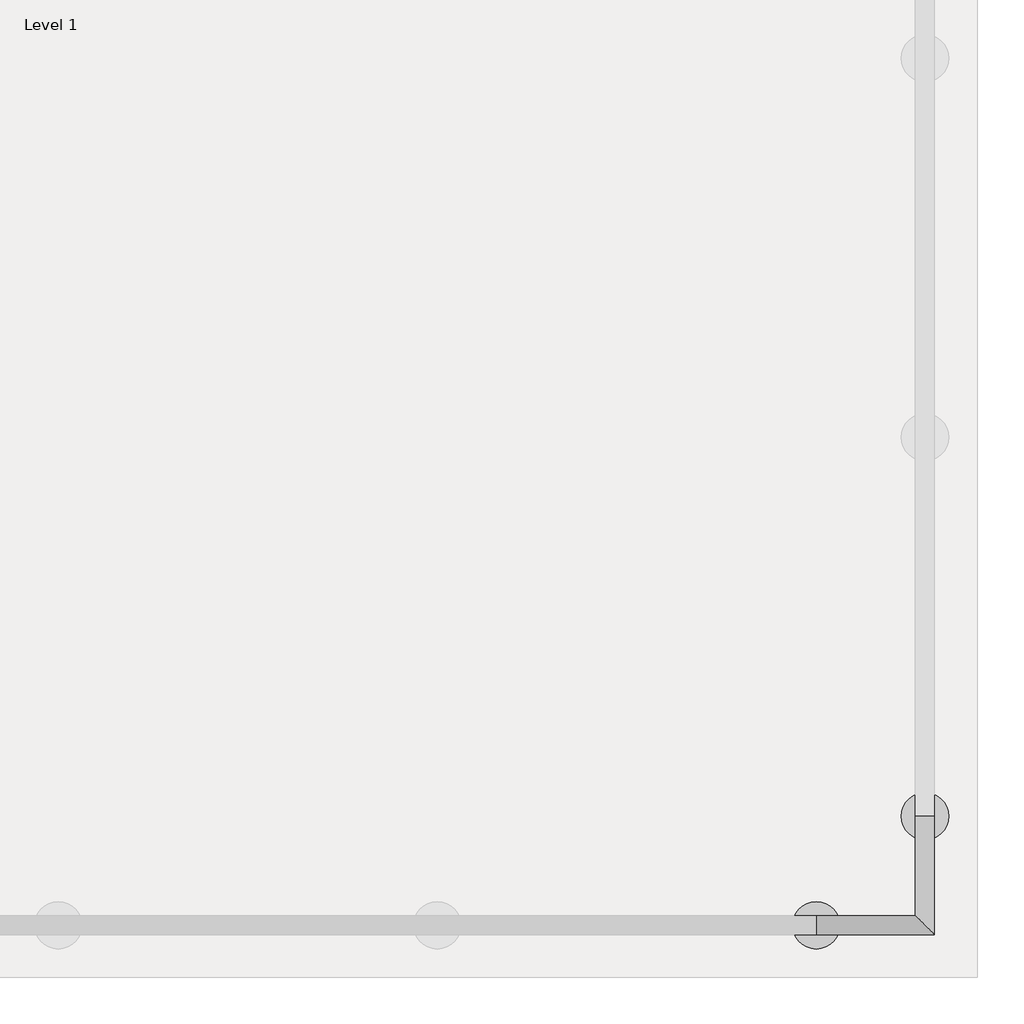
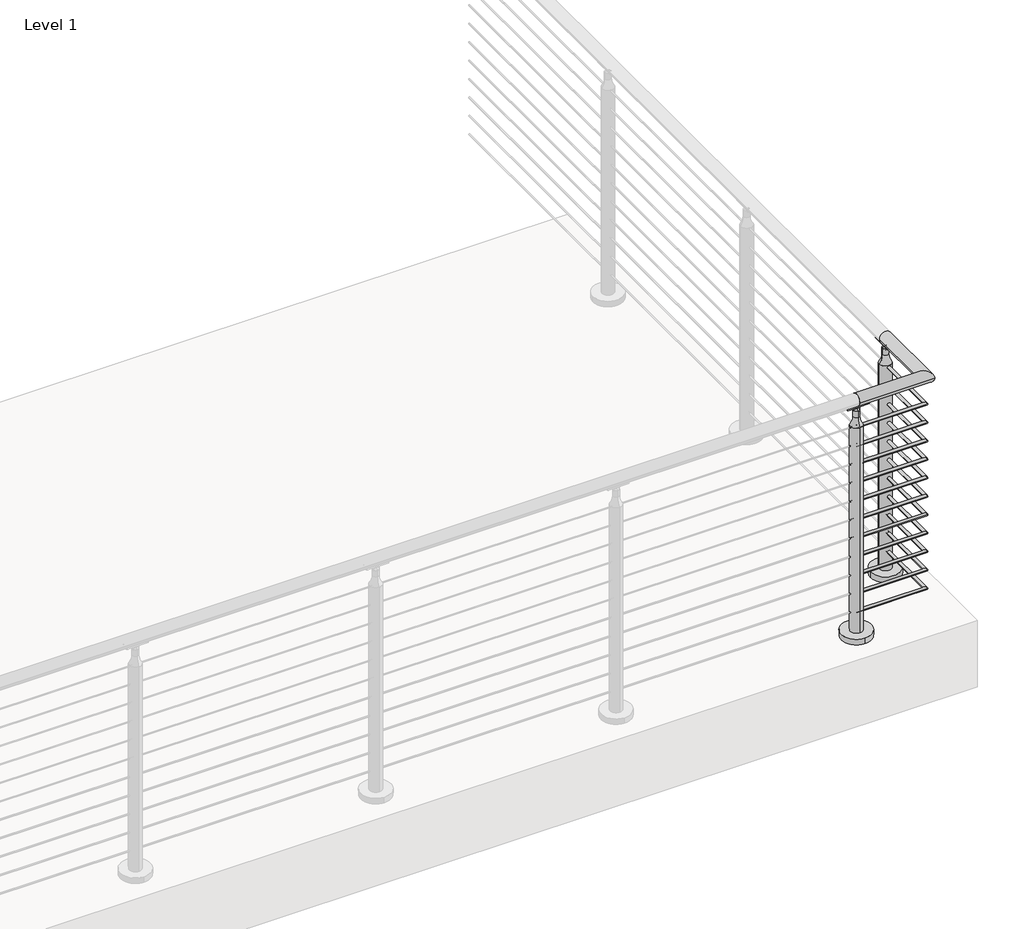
# One storey, part 17 of 21: 1 railing.
"""IFC4 building model written with IfcOpenShell, lengths in millimetres."""

from ifc_helpers import new_model, si_unit, point, frame, frame_2d, origin, origin_with_axes, place, context, project, spatial, polyline, circle_curve, ellipse_curve, trimmed, segment, composite_curve, outline, extrude, element, save
from ifc_brep_helpers import plane_surface, cylinder_surface, revolved_surface, advanced_brep

model = new_model("IFC4")

# Units and contexts
model_context = context("Model", 3, world=origin())
ifc_project = project(units=[si_unit("LENGTHUNIT", "METRE", prefix="MILLI")], contexts=[model_context])

# Site, building, storey
site = spatial("IfcSite", under=ifc_project)
building = spatial("IfcBuilding", under=site)
storey = spatial("IfcBuildingStorey", under=building, Name="Level 1", Elevation=0.0)

# Railing
placement = place(None, origin())
element("IfcRailing", 1, ObjectType="VIVA-CIRCA-Cable-Core Mount-Corner", at=placement, inside=storey, context=model_context, shape_type="SolidModel", body=[
    advanced_brep(
    [(69591.9592968, -57070.1334719, 1054.1), (69591.9592968, -57019.3334719, 1054.1), (69909.4592968, -57070.1334719, 1054.1), (69858.6592968, -57019.3334719, 1054.1), (69909.4592968, -56752.6334719, 1054.1), (69858.6592968, -56752.6334719, 1054.1)],
    [
        (0, 1, circle_curve(frame((69591.9592968, -57044.7334719, 1054.1), z_axis=(-1.0, 0.0, 0.0), x_axis=(0.0, 1.0, 0.0)), 25.4)),
        (1, 0, circle_curve(frame((69591.9592968, -57044.7334719, 1054.1), z_axis=(-1.0, 0.0, 0.0), x_axis=(0.0, 1.0, 0.0)), 25.4)),
        (0, 2),
        (2, 3, ellipse_curve(frame((69884.0592968, -57044.7334719, 1054.1), z_axis=(-0.7071067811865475, -0.7071067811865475, 0.0), x_axis=(-0.7071067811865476, 0.7071067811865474, 0.0)), 35.9210245, 25.4)),
        (3, 1),
        (3, 2, ellipse_curve(frame((69884.0592968, -57044.7334719, 1054.1), z_axis=(-0.7071067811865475, -0.7071067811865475, 0.0), x_axis=(-0.7071067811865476, 0.7071067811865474, 0.0)), 35.9210245, 25.4)),
        (4, 5, circle_curve(frame((69884.0592968, -56752.6334719, 1054.1), z_axis=(0.0, 1.0, 0.0), x_axis=(-1.0, 0.0, 0.0)), 25.4)),
        (5, 4, circle_curve(frame((69884.0592968, -56752.6334719, 1054.1), z_axis=(0.0, 1.0, 0.0), x_axis=(-1.0, 0.0, 0.0)), 25.4)),
        (2, 4),
        (5, 3),
    ],
    [
        plane_surface(frame((69591.9592968, -57044.7334719, 1079.5), z_axis=(-1.0, 0.0, 0.0), x_axis=(0.0, 1.0, 0.0))),
        cylinder_surface(frame((69591.9592968, -57044.7334719, 1054.1), z_axis=(-1.0, 0.0, 0.0), x_axis=(0.0, 1.0, 0.0)), 25.4),
        plane_surface(frame((69884.0592968, -56752.6334719, 1079.5), z_axis=(0.0, 1.0, 0.0), x_axis=(0.0, 0.0, 1.0))),
        cylinder_surface(frame((69884.0592968, -57044.7334719, 1054.1), z_axis=(0.0, -1.0, 0.0), x_axis=(-1.0, 0.0, 0.0)), 25.4),
    ],
    [
        (0, [[1, 2]]),
        (1, [[-1, 3, 4, 5]]),
        (1, [[-2, -5, 6, -3]]),
        (2, [[7, 8]]),
        (3, [[-4, 9, -8, 10]]),
        (3, [[-6, -10, -7, -9]]),
    ],
),
    advanced_brep(
    [(69591.9592968, -57038.3834719, 933.45), (69591.9592968, -57051.0834719, 933.45), (69877.7092968, -57038.3834719, 933.45), (69890.4092968, -57051.0834719, 933.45), (69877.7092968, -56752.6334719, 933.45), (69890.4092968, -56752.6334719, 933.45)],
    [
        (0, 1, circle_curve(frame((69591.9592968, -57044.7334719, 933.45), z_axis=(-1.0, 0.0, 0.0), x_axis=(0.0, -1.0, 0.0)), 6.35)),
        (1, 0, circle_curve(frame((69591.9592968, -57044.7334719, 933.45), z_axis=(-1.0, 0.0, 0.0), x_axis=(0.0, -1.0, 0.0)), 6.35)),
        (0, 2),
        (2, 3, ellipse_curve(frame((69884.0592968, -57044.7334719, 933.45), z_axis=(-0.7071067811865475, -0.7071067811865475, 0.0), x_axis=(-0.7071067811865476, 0.7071067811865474, 0.0)), 8.9802561, 6.35)),
        (3, 1),
        (3, 2, ellipse_curve(frame((69884.0592968, -57044.7334719, 933.45), z_axis=(-0.7071067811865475, -0.7071067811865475, 0.0), x_axis=(-0.7071067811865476, 0.7071067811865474, 0.0)), 8.9802561, 6.35)),
        (4, 5, circle_curve(frame((69884.0592968, -56752.6334719, 933.45), z_axis=(0.0, 1.0, 0.0), x_axis=(1.0, 0.0, 0.0)), 6.35)),
        (5, 4, circle_curve(frame((69884.0592968, -56752.6334719, 933.45), z_axis=(0.0, 1.0, 0.0), x_axis=(1.0, 0.0, 0.0)), 6.35)),
        (2, 4),
        (5, 3),
    ],
    [
        plane_surface(frame((69591.9592968, -57044.7334719, 939.8), z_axis=(-1.0, 0.0, 0.0), x_axis=(0.0, 1.0, 0.0))),
        cylinder_surface(frame((69591.9592968, -57044.7334719, 933.45), z_axis=(-1.0, 0.0, 0.0), x_axis=(0.0, -1.0, 0.0)), 6.35),
        plane_surface(frame((69884.0592968, -56752.6334719, 939.8), z_axis=(0.0, 1.0, 0.0), x_axis=(0.0, 0.0, 1.0))),
        cylinder_surface(frame((69884.0592968, -57044.7334719, 933.45), z_axis=(0.0, -1.0, 0.0), x_axis=(1.0, 0.0, 0.0)), 6.35),
    ],
    [
        (0, [[1, 2]]),
        (1, [[-1, 3, 4, 5]]),
        (1, [[-2, -5, 6, -3]]),
        (2, [[7, 8]]),
        (3, [[-4, 9, -8, 10]]),
        (3, [[-6, -10, -7, -9]]),
    ],
),
    advanced_brep(
    [(69591.9592968, -57038.3834719, 850.9), (69591.9592968, -57051.0834719, 850.9), (69877.7092968, -57038.3834719, 850.9), (69890.4092968, -57051.0834719, 850.9), (69877.7092968, -56752.6334719, 850.9), (69890.4092968, -56752.6334719, 850.9)],
    [
        (0, 1, circle_curve(frame((69591.9592968, -57044.7334719, 850.9), z_axis=(-1.0, 0.0, 0.0), x_axis=(0.0, -1.0, 0.0)), 6.35)),
        (1, 0, circle_curve(frame((69591.9592968, -57044.7334719, 850.9), z_axis=(-1.0, 0.0, 0.0), x_axis=(0.0, -1.0, 0.0)), 6.35)),
        (0, 2),
        (2, 3, ellipse_curve(frame((69884.0592968, -57044.7334719, 850.9), z_axis=(-0.7071067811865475, -0.7071067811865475, 0.0), x_axis=(-0.7071067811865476, 0.7071067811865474, 0.0)), 8.9802561, 6.35)),
        (3, 1),
        (3, 2, ellipse_curve(frame((69884.0592968, -57044.7334719, 850.9), z_axis=(-0.7071067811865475, -0.7071067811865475, 0.0), x_axis=(-0.7071067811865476, 0.7071067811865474, 0.0)), 8.9802561, 6.35)),
        (4, 5, circle_curve(frame((69884.0592968, -56752.6334719, 850.9), z_axis=(0.0, 1.0, 0.0), x_axis=(1.0, 0.0, 0.0)), 6.35)),
        (5, 4, circle_curve(frame((69884.0592968, -56752.6334719, 850.9), z_axis=(0.0, 1.0, 0.0), x_axis=(1.0, 0.0, 0.0)), 6.35)),
        (2, 4),
        (5, 3),
    ],
    [
        plane_surface(frame((69591.9592968, -57044.7334719, 857.25), z_axis=(-1.0, 0.0, 0.0), x_axis=(0.0, 1.0, 0.0))),
        cylinder_surface(frame((69591.9592968, -57044.7334719, 850.9), z_axis=(-1.0, 0.0, 0.0), x_axis=(0.0, -1.0, 0.0)), 6.35),
        plane_surface(frame((69884.0592968, -56752.6334719, 857.25), z_axis=(0.0, 1.0, 0.0), x_axis=(0.0, 0.0, 1.0))),
        cylinder_surface(frame((69884.0592968, -57044.7334719, 850.9), z_axis=(0.0, -1.0, 0.0), x_axis=(1.0, 0.0, 0.0)), 6.35),
    ],
    [
        (0, [[1, 2]]),
        (1, [[-1, 3, 4, 5]]),
        (1, [[-2, -5, 6, -3]]),
        (2, [[7, 8]]),
        (3, [[-4, 9, -8, 10]]),
        (3, [[-6, -10, -7, -9]]),
    ],
),
    advanced_brep(
    [(69591.9592968, -57038.3834719, 768.35), (69591.9592968, -57051.0834719, 768.35), (69877.7092968, -57038.3834719, 768.35), (69890.4092968, -57051.0834719, 768.35), (69877.7092968, -56752.6334719, 768.35), (69890.4092968, -56752.6334719, 768.35)],
    [
        (0, 1, circle_curve(frame((69591.9592968, -57044.7334719, 768.35), z_axis=(-1.0, 0.0, 0.0), x_axis=(0.0, -1.0, 0.0)), 6.35)),
        (1, 0, circle_curve(frame((69591.9592968, -57044.7334719, 768.35), z_axis=(-1.0, 0.0, 0.0), x_axis=(0.0, -1.0, 0.0)), 6.35)),
        (0, 2),
        (2, 3, ellipse_curve(frame((69884.0592968, -57044.7334719, 768.35), z_axis=(-0.7071067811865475, -0.7071067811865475, 0.0), x_axis=(-0.7071067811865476, 0.7071067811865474, 0.0)), 8.9802561, 6.35)),
        (3, 1),
        (3, 2, ellipse_curve(frame((69884.0592968, -57044.7334719, 768.35), z_axis=(-0.7071067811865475, -0.7071067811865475, 0.0), x_axis=(-0.7071067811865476, 0.7071067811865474, 0.0)), 8.9802561, 6.35)),
        (4, 5, circle_curve(frame((69884.0592968, -56752.6334719, 768.35), z_axis=(0.0, 1.0, 0.0), x_axis=(1.0, 0.0, 0.0)), 6.35)),
        (5, 4, circle_curve(frame((69884.0592968, -56752.6334719, 768.35), z_axis=(0.0, 1.0, 0.0), x_axis=(1.0, 0.0, 0.0)), 6.35)),
        (2, 4),
        (5, 3),
    ],
    [
        plane_surface(frame((69591.9592968, -57044.7334719, 774.7), z_axis=(-1.0, 0.0, 0.0), x_axis=(0.0, 1.0, 0.0))),
        cylinder_surface(frame((69591.9592968, -57044.7334719, 768.35), z_axis=(-1.0, 0.0, 0.0), x_axis=(0.0, -1.0, 0.0)), 6.35),
        plane_surface(frame((69884.0592968, -56752.6334719, 774.7), z_axis=(0.0, 1.0, 0.0), x_axis=(0.0, 0.0, 1.0))),
        cylinder_surface(frame((69884.0592968, -57044.7334719, 768.35), z_axis=(0.0, -1.0, 0.0), x_axis=(1.0, 0.0, 0.0)), 6.35),
    ],
    [
        (0, [[1, 2]]),
        (1, [[-1, 3, 4, 5]]),
        (1, [[-2, -5, 6, -3]]),
        (2, [[7, 8]]),
        (3, [[-4, 9, -8, 10]]),
        (3, [[-6, -10, -7, -9]]),
    ],
),
    advanced_brep(
    [(69591.9592968, -57038.3834719, 685.8), (69591.9592968, -57051.0834719, 685.8), (69877.7092968, -57038.3834719, 685.8), (69890.4092968, -57051.0834719, 685.8), (69877.7092968, -56752.6334719, 685.8), (69890.4092968, -56752.6334719, 685.8)],
    [
        (0, 1, circle_curve(frame((69591.9592968, -57044.7334719, 685.8), z_axis=(-1.0, 0.0, 0.0), x_axis=(0.0, -1.0, 0.0)), 6.35)),
        (1, 0, circle_curve(frame((69591.9592968, -57044.7334719, 685.8), z_axis=(-1.0, 0.0, 0.0), x_axis=(0.0, -1.0, 0.0)), 6.35)),
        (0, 2),
        (2, 3, ellipse_curve(frame((69884.0592968, -57044.7334719, 685.8), z_axis=(-0.7071067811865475, -0.7071067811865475, 0.0), x_axis=(-0.7071067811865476, 0.7071067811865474, 0.0)), 8.9802561, 6.35)),
        (3, 1),
        (3, 2, ellipse_curve(frame((69884.0592968, -57044.7334719, 685.8), z_axis=(-0.7071067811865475, -0.7071067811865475, 0.0), x_axis=(-0.7071067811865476, 0.7071067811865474, 0.0)), 8.9802561, 6.35)),
        (4, 5, circle_curve(frame((69884.0592968, -56752.6334719, 685.8), z_axis=(0.0, 1.0, 0.0), x_axis=(1.0, 0.0, 0.0)), 6.35)),
        (5, 4, circle_curve(frame((69884.0592968, -56752.6334719, 685.8), z_axis=(0.0, 1.0, 0.0), x_axis=(1.0, 0.0, 0.0)), 6.35)),
        (2, 4),
        (5, 3),
    ],
    [
        plane_surface(frame((69591.9592968, -57044.7334719, 692.15), z_axis=(-1.0, 0.0, 0.0), x_axis=(0.0, 1.0, 0.0))),
        cylinder_surface(frame((69591.9592968, -57044.7334719, 685.8), z_axis=(-1.0, 0.0, 0.0), x_axis=(0.0, -1.0, 0.0)), 6.35),
        plane_surface(frame((69884.0592968, -56752.6334719, 692.15), z_axis=(0.0, 1.0, 0.0), x_axis=(0.0, 0.0, 1.0))),
        cylinder_surface(frame((69884.0592968, -57044.7334719, 685.8), z_axis=(0.0, -1.0, 0.0), x_axis=(1.0, 0.0, 0.0)), 6.35),
    ],
    [
        (0, [[1, 2]]),
        (1, [[-1, 3, 4, 5]]),
        (1, [[-2, -5, 6, -3]]),
        (2, [[7, 8]]),
        (3, [[-4, 9, -8, 10]]),
        (3, [[-6, -10, -7, -9]]),
    ],
),
    advanced_brep(
    [(69591.9592968, -57038.3834719, 603.25), (69591.9592968, -57051.0834719, 603.25), (69877.7092968, -57038.3834719, 603.25), (69890.4092968, -57051.0834719, 603.25), (69877.7092968, -56752.6334719, 603.25), (69890.4092968, -56752.6334719, 603.25)],
    [
        (0, 1, circle_curve(frame((69591.9592968, -57044.7334719, 603.25), z_axis=(-1.0, 0.0, 0.0), x_axis=(0.0, -1.0, 0.0)), 6.35)),
        (1, 0, circle_curve(frame((69591.9592968, -57044.7334719, 603.25), z_axis=(-1.0, 0.0, 0.0), x_axis=(0.0, -1.0, 0.0)), 6.35)),
        (0, 2),
        (2, 3, ellipse_curve(frame((69884.0592968, -57044.7334719, 603.25), z_axis=(-0.7071067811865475, -0.7071067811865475, 0.0), x_axis=(-0.7071067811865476, 0.7071067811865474, 0.0)), 8.9802561, 6.35)),
        (3, 1),
        (3, 2, ellipse_curve(frame((69884.0592968, -57044.7334719, 603.25), z_axis=(-0.7071067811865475, -0.7071067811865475, 0.0), x_axis=(-0.7071067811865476, 0.7071067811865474, 0.0)), 8.9802561, 6.35)),
        (4, 5, circle_curve(frame((69884.0592968, -56752.6334719, 603.25), z_axis=(0.0, 1.0, 0.0), x_axis=(1.0, 0.0, 0.0)), 6.35)),
        (5, 4, circle_curve(frame((69884.0592968, -56752.6334719, 603.25), z_axis=(0.0, 1.0, 0.0), x_axis=(1.0, 0.0, 0.0)), 6.35)),
        (2, 4),
        (5, 3),
    ],
    [
        plane_surface(frame((69591.9592968, -57044.7334719, 609.6), z_axis=(-1.0, 0.0, 0.0), x_axis=(0.0, 1.0, 0.0))),
        cylinder_surface(frame((69591.9592968, -57044.7334719, 603.25), z_axis=(-1.0, 0.0, 0.0), x_axis=(0.0, -1.0, 0.0)), 6.35),
        plane_surface(frame((69884.0592968, -56752.6334719, 609.6), z_axis=(0.0, 1.0, 0.0), x_axis=(0.0, 0.0, 1.0))),
        cylinder_surface(frame((69884.0592968, -57044.7334719, 603.25), z_axis=(0.0, -1.0, 0.0), x_axis=(1.0, 0.0, 0.0)), 6.35),
    ],
    [
        (0, [[1, 2]]),
        (1, [[-1, 3, 4, 5]]),
        (1, [[-2, -5, 6, -3]]),
        (2, [[7, 8]]),
        (3, [[-4, 9, -8, 10]]),
        (3, [[-6, -10, -7, -9]]),
    ],
),
    advanced_brep(
    [(69591.9592968, -57038.3834719, 520.7), (69591.9592968, -57051.0834719, 520.7), (69877.7092968, -57038.3834719, 520.7), (69890.4092968, -57051.0834719, 520.7), (69877.7092968, -56752.6334719, 520.7), (69890.4092968, -56752.6334719, 520.7)],
    [
        (0, 1, circle_curve(frame((69591.9592968, -57044.7334719, 520.7), z_axis=(-1.0, 0.0, 0.0), x_axis=(0.0, -1.0, 0.0)), 6.35)),
        (1, 0, circle_curve(frame((69591.9592968, -57044.7334719, 520.7), z_axis=(-1.0, 0.0, 0.0), x_axis=(0.0, -1.0, 0.0)), 6.35)),
        (0, 2),
        (2, 3, ellipse_curve(frame((69884.0592968, -57044.7334719, 520.7), z_axis=(-0.7071067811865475, -0.7071067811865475, 0.0), x_axis=(-0.7071067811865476, 0.7071067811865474, 0.0)), 8.9802561, 6.35)),
        (3, 1),
        (3, 2, ellipse_curve(frame((69884.0592968, -57044.7334719, 520.7), z_axis=(-0.7071067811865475, -0.7071067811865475, 0.0), x_axis=(-0.7071067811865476, 0.7071067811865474, 0.0)), 8.9802561, 6.35)),
        (4, 5, circle_curve(frame((69884.0592968, -56752.6334719, 520.7), z_axis=(0.0, 1.0, 0.0), x_axis=(1.0, 0.0, 0.0)), 6.35)),
        (5, 4, circle_curve(frame((69884.0592968, -56752.6334719, 520.7), z_axis=(0.0, 1.0, 0.0), x_axis=(1.0, 0.0, 0.0)), 6.35)),
        (2, 4),
        (5, 3),
    ],
    [
        plane_surface(frame((69591.9592968, -57044.7334719, 527.05), z_axis=(-1.0, 0.0, 0.0), x_axis=(0.0, 1.0, 0.0))),
        cylinder_surface(frame((69591.9592968, -57044.7334719, 520.7), z_axis=(-1.0, 0.0, 0.0), x_axis=(0.0, -1.0, 0.0)), 6.35),
        plane_surface(frame((69884.0592968, -56752.6334719, 527.05), z_axis=(0.0, 1.0, 0.0), x_axis=(0.0, 0.0, 1.0))),
        cylinder_surface(frame((69884.0592968, -57044.7334719, 520.7), z_axis=(0.0, -1.0, 0.0), x_axis=(1.0, 0.0, 0.0)), 6.35),
    ],
    [
        (0, [[1, 2]]),
        (1, [[-1, 3, 4, 5]]),
        (1, [[-2, -5, 6, -3]]),
        (2, [[7, 8]]),
        (3, [[-4, 9, -8, 10]]),
        (3, [[-6, -10, -7, -9]]),
    ],
),
    advanced_brep(
    [(69591.9592968, -57038.3834719, 438.15), (69591.9592968, -57051.0834719, 438.15), (69877.7092968, -57038.3834719, 438.15), (69890.4092968, -57051.0834719, 438.15), (69877.7092968, -56752.6334719, 438.15), (69890.4092968, -56752.6334719, 438.15)],
    [
        (0, 1, circle_curve(frame((69591.9592968, -57044.7334719, 438.15), z_axis=(-1.0, 0.0, 0.0), x_axis=(0.0, -1.0, 0.0)), 6.35)),
        (1, 0, circle_curve(frame((69591.9592968, -57044.7334719, 438.15), z_axis=(-1.0, 0.0, 0.0), x_axis=(0.0, -1.0, 0.0)), 6.35)),
        (0, 2),
        (2, 3, ellipse_curve(frame((69884.0592968, -57044.7334719, 438.15), z_axis=(-0.7071067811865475, -0.7071067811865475, 0.0), x_axis=(-0.7071067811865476, 0.7071067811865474, 0.0)), 8.9802561, 6.35)),
        (3, 1),
        (3, 2, ellipse_curve(frame((69884.0592968, -57044.7334719, 438.15), z_axis=(-0.7071067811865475, -0.7071067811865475, 0.0), x_axis=(-0.7071067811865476, 0.7071067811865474, 0.0)), 8.9802561, 6.35)),
        (4, 5, circle_curve(frame((69884.0592968, -56752.6334719, 438.15), z_axis=(0.0, 1.0, 0.0), x_axis=(1.0, 0.0, 0.0)), 6.35)),
        (5, 4, circle_curve(frame((69884.0592968, -56752.6334719, 438.15), z_axis=(0.0, 1.0, 0.0), x_axis=(1.0, 0.0, 0.0)), 6.35)),
        (2, 4),
        (5, 3),
    ],
    [
        plane_surface(frame((69591.9592968, -57044.7334719, 444.5), z_axis=(-1.0, 0.0, 0.0), x_axis=(0.0, 1.0, 0.0))),
        cylinder_surface(frame((69591.9592968, -57044.7334719, 438.15), z_axis=(-1.0, 0.0, 0.0), x_axis=(0.0, -1.0, 0.0)), 6.35),
        plane_surface(frame((69884.0592968, -56752.6334719, 444.5), z_axis=(0.0, 1.0, 0.0), x_axis=(0.0, 0.0, 1.0))),
        cylinder_surface(frame((69884.0592968, -57044.7334719, 438.15), z_axis=(0.0, -1.0, 0.0), x_axis=(1.0, 0.0, 0.0)), 6.35),
    ],
    [
        (0, [[1, 2]]),
        (1, [[-1, 3, 4, 5]]),
        (1, [[-2, -5, 6, -3]]),
        (2, [[7, 8]]),
        (3, [[-4, 9, -8, 10]]),
        (3, [[-6, -10, -7, -9]]),
    ],
),
    advanced_brep(
    [(69591.9592968, -57038.3834719, 355.6), (69591.9592968, -57051.0834719, 355.6), (69877.7092968, -57038.3834719, 355.6), (69890.4092968, -57051.0834719, 355.6), (69877.7092968, -56752.6334719, 355.6), (69890.4092968, -56752.6334719, 355.6)],
    [
        (0, 1, circle_curve(frame((69591.9592968, -57044.7334719, 355.6), z_axis=(-1.0, 0.0, 0.0), x_axis=(0.0, -1.0, 0.0)), 6.35)),
        (1, 0, circle_curve(frame((69591.9592968, -57044.7334719, 355.6), z_axis=(-1.0, 0.0, 0.0), x_axis=(0.0, -1.0, 0.0)), 6.35)),
        (0, 2),
        (2, 3, ellipse_curve(frame((69884.0592968, -57044.7334719, 355.6), z_axis=(-0.7071067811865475, -0.7071067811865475, 0.0), x_axis=(-0.7071067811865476, 0.7071067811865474, 0.0)), 8.9802561, 6.35)),
        (3, 1),
        (3, 2, ellipse_curve(frame((69884.0592968, -57044.7334719, 355.6), z_axis=(-0.7071067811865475, -0.7071067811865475, 0.0), x_axis=(-0.7071067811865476, 0.7071067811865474, 0.0)), 8.9802561, 6.35)),
        (4, 5, circle_curve(frame((69884.0592968, -56752.6334719, 355.6), z_axis=(0.0, 1.0, 0.0), x_axis=(1.0, 0.0, 0.0)), 6.35)),
        (5, 4, circle_curve(frame((69884.0592968, -56752.6334719, 355.6), z_axis=(0.0, 1.0, 0.0), x_axis=(1.0, 0.0, 0.0)), 6.35)),
        (2, 4),
        (5, 3),
    ],
    [
        plane_surface(frame((69591.9592968, -57044.7334719, 361.95), z_axis=(-1.0, 0.0, 0.0), x_axis=(0.0, 1.0, 0.0))),
        cylinder_surface(frame((69591.9592968, -57044.7334719, 355.6), z_axis=(-1.0, 0.0, 0.0), x_axis=(0.0, -1.0, 0.0)), 6.35),
        plane_surface(frame((69884.0592968, -56752.6334719, 361.95), z_axis=(0.0, 1.0, 0.0), x_axis=(0.0, 0.0, 1.0))),
        cylinder_surface(frame((69884.0592968, -57044.7334719, 355.6), z_axis=(0.0, -1.0, 0.0), x_axis=(1.0, 0.0, 0.0)), 6.35),
    ],
    [
        (0, [[1, 2]]),
        (1, [[-1, 3, 4, 5]]),
        (1, [[-2, -5, 6, -3]]),
        (2, [[7, 8]]),
        (3, [[-4, 9, -8, 10]]),
        (3, [[-6, -10, -7, -9]]),
    ],
),
    advanced_brep(
    [(69591.9592968, -57038.3834719, 273.05), (69591.9592968, -57051.0834719, 273.05), (69877.7092968, -57038.3834719, 273.05), (69890.4092968, -57051.0834719, 273.05), (69877.7092968, -56752.6334719, 273.05), (69890.4092968, -56752.6334719, 273.05)],
    [
        (0, 1, circle_curve(frame((69591.9592968, -57044.7334719, 273.05), z_axis=(-1.0, 0.0, 0.0), x_axis=(0.0, -1.0, 0.0)), 6.35)),
        (1, 0, circle_curve(frame((69591.9592968, -57044.7334719, 273.05), z_axis=(-1.0, 0.0, 0.0), x_axis=(0.0, -1.0, 0.0)), 6.35)),
        (0, 2),
        (2, 3, ellipse_curve(frame((69884.0592968, -57044.7334719, 273.05), z_axis=(-0.7071067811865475, -0.7071067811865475, 0.0), x_axis=(-0.7071067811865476, 0.7071067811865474, 0.0)), 8.9802561, 6.35)),
        (3, 1),
        (3, 2, ellipse_curve(frame((69884.0592968, -57044.7334719, 273.05), z_axis=(-0.7071067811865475, -0.7071067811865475, 0.0), x_axis=(-0.7071067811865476, 0.7071067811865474, 0.0)), 8.9802561, 6.35)),
        (4, 5, circle_curve(frame((69884.0592968, -56752.6334719, 273.05), z_axis=(0.0, 1.0, 0.0), x_axis=(1.0, 0.0, 0.0)), 6.35)),
        (5, 4, circle_curve(frame((69884.0592968, -56752.6334719, 273.05), z_axis=(0.0, 1.0, 0.0), x_axis=(1.0, 0.0, 0.0)), 6.35)),
        (2, 4),
        (5, 3),
    ],
    [
        plane_surface(frame((69591.9592968, -57044.7334719, 279.4), z_axis=(-1.0, 0.0, 0.0), x_axis=(0.0, 1.0, 0.0))),
        cylinder_surface(frame((69591.9592968, -57044.7334719, 273.05), z_axis=(-1.0, 0.0, 0.0), x_axis=(0.0, -1.0, 0.0)), 6.35),
        plane_surface(frame((69884.0592968, -56752.6334719, 279.4), z_axis=(0.0, 1.0, 0.0), x_axis=(0.0, 0.0, 1.0))),
        cylinder_surface(frame((69884.0592968, -57044.7334719, 273.05), z_axis=(0.0, -1.0, 0.0), x_axis=(1.0, 0.0, 0.0)), 6.35),
    ],
    [
        (0, [[1, 2]]),
        (1, [[-1, 3, 4, 5]]),
        (1, [[-2, -5, 6, -3]]),
        (2, [[7, 8]]),
        (3, [[-4, 9, -8, 10]]),
        (3, [[-6, -10, -7, -9]]),
    ],
),
    advanced_brep(
    [(69591.9592968, -57038.3834719, 190.5), (69591.9592968, -57051.0834719, 190.5), (69877.7092968, -57038.3834719, 190.5), (69890.4092968, -57051.0834719, 190.5), (69877.7092968, -56752.6334719, 190.5), (69890.4092968, -56752.6334719, 190.5)],
    [
        (0, 1, circle_curve(frame((69591.9592968, -57044.7334719, 190.5), z_axis=(-1.0, 0.0, 0.0), x_axis=(0.0, -1.0, 0.0)), 6.35)),
        (1, 0, circle_curve(frame((69591.9592968, -57044.7334719, 190.5), z_axis=(-1.0, 0.0, 0.0), x_axis=(0.0, -1.0, 0.0)), 6.35)),
        (0, 2),
        (2, 3, ellipse_curve(frame((69884.0592968, -57044.7334719, 190.5), z_axis=(-0.7071067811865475, -0.7071067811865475, 0.0), x_axis=(-0.7071067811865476, 0.7071067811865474, 0.0)), 8.9802561, 6.35)),
        (3, 1),
        (3, 2, ellipse_curve(frame((69884.0592968, -57044.7334719, 190.5), z_axis=(-0.7071067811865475, -0.7071067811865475, 0.0), x_axis=(-0.7071067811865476, 0.7071067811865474, 0.0)), 8.9802561, 6.35)),
        (4, 5, circle_curve(frame((69884.0592968, -56752.6334719, 190.5), z_axis=(0.0, 1.0, 0.0), x_axis=(1.0, 0.0, 0.0)), 6.35)),
        (5, 4, circle_curve(frame((69884.0592968, -56752.6334719, 190.5), z_axis=(0.0, 1.0, 0.0), x_axis=(1.0, 0.0, 0.0)), 6.35)),
        (2, 4),
        (5, 3),
    ],
    [
        plane_surface(frame((69591.9592968, -57044.7334719, 196.85), z_axis=(-1.0, 0.0, 0.0), x_axis=(0.0, 1.0, 0.0))),
        cylinder_surface(frame((69591.9592968, -57044.7334719, 190.5), z_axis=(-1.0, 0.0, 0.0), x_axis=(0.0, -1.0, 0.0)), 6.35),
        plane_surface(frame((69884.0592968, -56752.6334719, 196.85), z_axis=(0.0, 1.0, 0.0), x_axis=(0.0, 0.0, 1.0))),
        cylinder_surface(frame((69884.0592968, -57044.7334719, 190.5), z_axis=(0.0, -1.0, 0.0), x_axis=(1.0, 0.0, 0.0)), 6.35),
    ],
    [
        (0, [[1, 2]]),
        (1, [[-1, 3, 4, 5]]),
        (1, [[-2, -5, 6, -3]]),
        (2, [[7, 8]]),
        (3, [[-4, 9, -8, 10]]),
        (3, [[-6, -10, -7, -9]]),
    ],
),
    advanced_brep(
    [(69591.9592968, -57038.3834719, 107.95), (69591.9592968, -57051.0834719, 107.95), (69877.7092968, -57038.3834719, 107.95), (69890.4092968, -57051.0834719, 107.95), (69877.7092968, -56752.6334719, 107.95), (69890.4092968, -56752.6334719, 107.95)],
    [
        (0, 1, circle_curve(frame((69591.9592968, -57044.7334719, 107.95), z_axis=(-1.0, 0.0, 0.0), x_axis=(0.0, -1.0, 0.0)), 6.35)),
        (1, 0, circle_curve(frame((69591.9592968, -57044.7334719, 107.95), z_axis=(-1.0, 0.0, 0.0), x_axis=(0.0, -1.0, 0.0)), 6.35)),
        (0, 2),
        (2, 3, ellipse_curve(frame((69884.0592968, -57044.7334719, 107.95), z_axis=(-0.7071067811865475, -0.7071067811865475, 0.0), x_axis=(-0.7071067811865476, 0.7071067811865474, 0.0)), 8.9802561, 6.35)),
        (3, 1),
        (3, 2, ellipse_curve(frame((69884.0592968, -57044.7334719, 107.95), z_axis=(-0.7071067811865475, -0.7071067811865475, 0.0), x_axis=(-0.7071067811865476, 0.7071067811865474, 0.0)), 8.9802561, 6.35)),
        (4, 5, circle_curve(frame((69884.0592968, -56752.6334719, 107.95), z_axis=(0.0, 1.0, 0.0), x_axis=(1.0, 0.0, 0.0)), 6.35)),
        (5, 4, circle_curve(frame((69884.0592968, -56752.6334719, 107.95), z_axis=(0.0, 1.0, 0.0), x_axis=(1.0, 0.0, 0.0)), 6.35)),
        (2, 4),
        (5, 3),
    ],
    [
        plane_surface(frame((69591.9592968, -57044.7334719, 114.3), z_axis=(-1.0, 0.0, 0.0), x_axis=(0.0, 1.0, 0.0))),
        cylinder_surface(frame((69591.9592968, -57044.7334719, 107.95), z_axis=(-1.0, 0.0, 0.0), x_axis=(0.0, -1.0, 0.0)), 6.35),
        plane_surface(frame((69884.0592968, -56752.6334719, 114.3), z_axis=(0.0, 1.0, 0.0), x_axis=(0.0, 0.0, 1.0))),
        cylinder_surface(frame((69884.0592968, -57044.7334719, 107.95), z_axis=(0.0, -1.0, 0.0), x_axis=(1.0, 0.0, 0.0)), 6.35),
    ],
    [
        (0, [[1, 2]]),
        (1, [[-1, 3, 4, 5]]),
        (1, [[-2, -5, 6, -3]]),
        (2, [[7, 8]]),
        (3, [[-4, 9, -8, 10]]),
        (3, [[-6, -10, -7, -9]]),
    ],
),
    extrude(outline(composite_curve([segment(trimmed(circle_curve(frame_2d((69884.0592968, -56752.2365969)), 63.5), [point((69947.5592968, -56752.2365969))], [point((69820.5592968, -56752.2365969))], False, "CARTESIAN"), True, "CONTINUOUS"), segment(trimmed(circle_curve(frame_2d((69884.0592968, -56752.2365969)), 63.5), [point((69820.5592968, -56752.2365969))], [point((69947.5592968, -56752.2365969))], False, "CARTESIAN"), True, "CONTINUOUS")], self_intersect=False)), origin_with_axes(), (0.0, 0.0, 1.0), 25.4),
    extrude(outline(composite_curve([segment(trimmed(circle_curve(frame_2d((1055.4254922, 69883.9625684)), 25.4345159), [point((1033.3106679, 69896.5263713))], [point((1033.2157471, 69871.5673346))], True, "CARTESIAN"), True, "CONTINUOUS"), segment(trimmed(circle_curve(frame_2d((1030.7132623, 69870.3226815)), 2.7949225), [point((1033.2157471, 69871.5673346))], [point((1028.3406769, 69868.8453764))], False, "CARTESIAN"), True, "CONTINUOUS"), segment(trimmed(circle_curve(frame_2d((1056.1881188, 69884.0960315)), 31.75), [point((1028.3406769, 69868.8453764))], [point((1028.9214354, 69900.3622687))], False, "CARTESIAN"), True, "CONTINUOUS"), segment(trimmed(circle_curve(frame_2d((1030.7923545, 69898.073929)), 2.9558141), [point((1028.9214354, 69900.3622687))], [point((1033.3106679, 69896.5263713))], False, "CARTESIAN"), True, "CONTINUOUS")], self_intersect=False)), frame((0.0, -56797.4739969, 0.0), z_axis=(0.0, 1.0, 0.0), x_axis=(0.0, 0.0, 1.0)), (0.0, 0.0, 1.0), 90.4748),
    extrude(outline(composite_curve([segment(trimmed(circle_curve(frame_2d((-56725.168682, 1010.282776)), 14.3679149), [point((-56725.168682, 1024.6506908))], [point((-56739.5365969, 1010.282776))], True, "CARTESIAN"), True, "CONTINUOUS"), segment(trimmed(circle_curve(frame_2d((-56752.2365969, 1010.282776)), 12.7), [point((-56739.5365969, 1010.282776))], [point((-56764.9365969, 1010.282776))], False, "CARTESIAN"), True, "CONTINUOUS"), segment(trimmed(circle_curve(frame_2d((-56779.3045117, 1010.282776)), 14.3679149), [point((-56764.9365969, 1010.282776))], [point((-56779.3045117, 1024.6506908))], True, "CARTESIAN"), True, "CONTINUOUS"), segment(polyline([(-56779.3045117, 1024.6506908), (-56725.168682, 1024.6506908)]), True, "CONTINUOUS")], self_intersect=False)), frame((69881.5192968, 0.0, 0.0), z_axis=(1.0, 0.0, 0.0), x_axis=(0.0, 1.0, 0.0)), (0.0, 0.0, 1.0), 5.08),
    advanced_brep(
    [(69909.4586946, -56752.2365969, 941.1347854), (69858.659899, -56752.2365969, 941.1347854), (69858.659899, -56752.2365969, -88.9), (69909.4586946, -56752.2365969, -88.9), (69896.7972653, -56752.2365969, 979.3486202), (69871.3213282, -56752.2365969, 979.3486202), (69896.7972653, -56752.2365969, 1008.5779599), (69871.3213282, -56752.2365969, 1008.5779599), (69884.0592968, -56752.2365969, 1015.238668), (69884.0592968, -56752.2365969, -88.9)],
    [
        (0, 1, circle_curve(frame((69884.0592968, -56752.2365969, 941.1347854), z_axis=(0.0, 0.0, -1.0), x_axis=(-1.0, 0.0, 0.0)), 25.3993978)),
        (1, 2),
        (2, 3, circle_curve(frame((69884.0592968, -56752.2365969, -88.9), z_axis=(0.0, 0.0, 1.0), x_axis=(-1.0, 0.0, 0.0)), 25.3993978)),
        (3, 0),
        (1, 0, circle_curve(frame((69884.0592968, -56752.2365969, 941.1347854), z_axis=(0.0, 0.0, -1.0), x_axis=(-1.0, 0.0, 0.0)), 25.3993978)),
        (3, 2, circle_curve(frame((69884.0592968, -56752.2365969, -88.9), z_axis=(0.0, 0.0, 1.0), x_axis=(-1.0, 0.0, 0.0)), 25.3993978)),
        (4, 5, circle_curve(frame((69884.0592968, -56752.2365969, 979.3486202), z_axis=(0.0, 0.0, -1.0), x_axis=(-1.0, 0.0, 0.0)), 12.7379685)),
        (5, 1, circle_curve(frame((69807.3234599, -56752.2365969, 979.3486202), z_axis=(0.0, 1.0, 0.0), x_axis=(-1.0, 0.0, 0.0)), 63.9978683)),
        (0, 4, circle_curve(frame((69960.7951336, -56752.2365969, 979.3486202), z_axis=(0.0, 1.0, 0.0), x_axis=(1.0, 0.0, 0.0)), 63.9978683)),
        (5, 4, circle_curve(frame((69884.0592968, -56752.2365969, 979.3486202), z_axis=(0.0, 0.0, -1.0), x_axis=(-1.0, 0.0, 0.0)), 12.7379685)),
        (6, 7, circle_curve(frame((69884.0592968, -56752.2365969, 1008.5779599), z_axis=(0.0, 0.0, -1.0), x_axis=(-1.0, 0.0, 0.0)), 12.7379685)),
        (7, 5),
        (4, 6),
        (7, 6, circle_curve(frame((69884.0592968, -56752.2365969, 1008.5779599), z_axis=(0.0, 0.0, -1.0), x_axis=(-1.0, 0.0, 0.0)), 12.7379685)),
        (8, 7, circle_curve(frame((69884.0592968, -56752.2365969, 999.7282394), z_axis=(0.0, -1.0, 0.0), x_axis=(-1.0, 0.0, 0.0)), 15.5104286)),
        (6, 8, circle_curve(frame((69884.0592968, -56752.2365969, 999.7282394), z_axis=(0.0, -1.0, 0.0), x_axis=(1.0, 0.0, 0.0)), 15.5104286)),
        (2, 9),
        (9, 3),
    ],
    [
        cylinder_surface(frame((69884.0592968, -56752.2365969, 1104.9), z_axis=(0.0, 0.0, 1.0), x_axis=(-1.0, 0.0, 0.0)), 25.3993978),
        revolved_surface(trimmed(ellipse_curve(frame((69807.3234599, -56752.2365969, 979.3486202), z_axis=(0.0, -1.0, 0.0), x_axis=(-1.0, 0.0, 0.0)), 63.9978683, 63.9978683), [point((69858.659899, -56752.2365969, 941.1347854))], [point((69871.3213282, -56752.2365969, 979.3486202))], True, "CARTESIAN"), (69884.0592968, -56752.2365969, 1104.9), (0.0, 0.0, 1.0)),
        cylinder_surface(frame((69884.0592968, -56752.2365969, 1104.9), z_axis=(0.0, 0.0, 1.0), x_axis=(-1.0, 0.0, 0.0)), 12.7379685),
        revolved_surface(trimmed(ellipse_curve(frame((69884.0592968, -56752.2365969, 999.7282394), z_axis=(0.0, 1.0, 0.0), x_axis=(-1.0, 0.0, 0.0)), 15.5104286, 15.5104286), [point((69871.3213282, -56752.2365969, 1008.5779599))], [point((69884.0592968, -56752.2365969, 1015.238668))], True, "CARTESIAN"), (69884.0592968, -56752.2365969, 1104.9), (0.0, 0.0, 1.0)),
        plane_surface(frame((69884.0592968, -56752.2365969, -88.9), z_axis=(0.0, 0.0, -1.0), x_axis=(-1.0, 0.0, 0.0))),
    ],
    [
        (0, [[1, 2, 3, 4]]),
        (0, [[5, -4, 6, -2]]),
        (1, [[7, 8, -1, 9]]),
        (1, [[10, -9, -5, -8]]),
        (2, [[11, 12, -7, 13]]),
        (2, [[14, -13, -10, -12]]),
        (3, [[15, -11, 16]]),
        (3, [[-16, -14, -15]]),
        (4, [[-3, 17, 18]]),
        (4, [[-6, -18, -17]]),
    ],
),
    extrude(outline(composite_curve([segment(trimmed(circle_curve(frame_2d((69592.3561718, -57044.7334719)), 63.5), [point((69592.3561718, -57108.2334719))], [point((69592.3561718, -56981.2334719))], False, "CARTESIAN"), True, "CONTINUOUS"), segment(trimmed(circle_curve(frame_2d((69592.3561718, -57044.7334719)), 63.5), [point((69592.3561718, -56981.2334719))], [point((69592.3561718, -57108.2334719))], False, "CARTESIAN"), True, "CONTINUOUS")], self_intersect=False)), origin_with_axes(), (0.0, 0.0, 1.0), 25.4),
    extrude(outline(composite_curve([segment(trimmed(circle_curve(frame_2d((-57044.6367435, 1055.4254922)), 25.4345159), [point((-57057.2005464, 1033.3106679))], [point((-57032.2415097, 1033.2157471))], True, "CARTESIAN"), True, "CONTINUOUS"), segment(trimmed(circle_curve(frame_2d((-57030.9968566, 1030.7132623)), 2.7949225), [point((-57032.2415097, 1033.2157471))], [point((-57029.5195515, 1028.3406769))], False, "CARTESIAN"), True, "CONTINUOUS"), segment(trimmed(circle_curve(frame_2d((-57044.7702066, 1056.1881188)), 31.75), [point((-57029.5195515, 1028.3406769))], [point((-57061.0364438, 1028.9214354))], False, "CARTESIAN"), True, "CONTINUOUS"), segment(trimmed(circle_curve(frame_2d((-57058.7481041, 1030.7923545)), 2.9558141), [point((-57061.0364438, 1028.9214354))], [point((-57057.2005464, 1033.3106679))], False, "CARTESIAN"), True, "CONTINUOUS")], self_intersect=False)), frame((69547.1187718, 0.0, 0.0), z_axis=(1.0, 0.0, 0.0), x_axis=(0.0, 1.0, 0.0)), (0.0, 0.0, 1.0), 90.4748),
    extrude(outline(composite_curve([segment(polyline([(1024.6506908, 69619.4240866), (1024.6506908, 69565.2882569)]), True, "CONTINUOUS"), segment(trimmed(circle_curve(frame_2d((1010.282776, 69565.2882569)), 14.3679149), [point((1024.6506908, 69565.2882569))], [point((1010.282776, 69579.6561718))], True, "CARTESIAN"), True, "CONTINUOUS"), segment(trimmed(circle_curve(frame_2d((1010.282776, 69592.3561718)), 12.7), [point((1010.282776, 69579.6561718))], [point((1010.282776, 69605.0561718))], False, "CARTESIAN"), True, "CONTINUOUS"), segment(trimmed(circle_curve(frame_2d((1010.282776, 69619.4240866)), 14.3679149), [point((1010.282776, 69605.0561718))], [point((1024.6506908, 69619.4240866))], True, "CARTESIAN"), True, "CONTINUOUS")], self_intersect=False)), frame((0.0, -57047.2734719, 0.0), z_axis=(0.0, 1.0, 0.0), x_axis=(0.0, 0.0, 1.0)), (0.0, 0.0, 1.0), 5.08),
    advanced_brep(
    [(69592.3561718, -57070.1328697, 941.1347854), (69592.3561718, -57019.3340741, 941.1347854), (69592.3561718, -57019.3340741, -88.9), (69592.3561718, -57070.1328697, -88.9), (69592.3561718, -57057.4714404, 979.3486202), (69592.3561718, -57031.9955033, 979.3486202), (69592.3561718, -57057.4714404, 1008.5779599), (69592.3561718, -57031.9955033, 1008.5779599), (69592.3561718, -57044.7334719, 1015.238668), (69592.3561718, -57044.7334719, -88.9)],
    [
        (0, 1, circle_curve(frame((69592.3561718, -57044.7334719, 941.1347854), z_axis=(0.0, 0.0, -1.0), x_axis=(0.0, 1.0, 0.0)), 25.3993978)),
        (1, 2),
        (2, 3, circle_curve(frame((69592.3561718, -57044.7334719, -88.9), z_axis=(0.0, 0.0, 1.0), x_axis=(0.0, 1.0, 0.0)), 25.3993978)),
        (3, 0),
        (1, 0, circle_curve(frame((69592.3561718, -57044.7334719, 941.1347854), z_axis=(0.0, 0.0, -1.0), x_axis=(0.0, 1.0, 0.0)), 25.3993978)),
        (3, 2, circle_curve(frame((69592.3561718, -57044.7334719, -88.9), z_axis=(0.0, 0.0, 1.0), x_axis=(0.0, 1.0, 0.0)), 25.3993978)),
        (4, 5, circle_curve(frame((69592.3561718, -57044.7334719, 979.3486202), z_axis=(0.0, 0.0, -1.0), x_axis=(0.0, 1.0, 0.0)), 12.7379685)),
        (5, 1, circle_curve(frame((69592.3561718, -56967.997635, 979.3486202), z_axis=(1.0, 0.0, 0.0), x_axis=(0.0, 1.0, 0.0)), 63.9978683)),
        (0, 4, circle_curve(frame((69592.3561718, -57121.4693087, 979.3486202), z_axis=(1.0, 0.0, 0.0), x_axis=(0.0, -1.0, 0.0)), 63.9978683)),
        (5, 4, circle_curve(frame((69592.3561718, -57044.7334719, 979.3486202), z_axis=(0.0, 0.0, -1.0), x_axis=(0.0, 1.0, 0.0)), 12.7379685)),
        (6, 7, circle_curve(frame((69592.3561718, -57044.7334719, 1008.5779599), z_axis=(0.0, 0.0, -1.0), x_axis=(0.0, 1.0, 0.0)), 12.7379685)),
        (7, 5),
        (4, 6),
        (7, 6, circle_curve(frame((69592.3561718, -57044.7334719, 1008.5779599), z_axis=(0.0, 0.0, -1.0), x_axis=(0.0, 1.0, 0.0)), 12.7379685)),
        (8, 7, circle_curve(frame((69592.3561718, -57044.7334719, 999.7282394), z_axis=(-1.0, 0.0, 0.0), x_axis=(0.0, 1.0, 0.0)), 15.5104286)),
        (6, 8, circle_curve(frame((69592.3561718, -57044.7334719, 999.7282394), z_axis=(-1.0, 0.0, 0.0), x_axis=(0.0, -1.0, 0.0)), 15.5104286)),
        (2, 9),
        (9, 3),
    ],
    [
        cylinder_surface(frame((69592.3561718, -57044.7334719, 1104.9), z_axis=(0.0, 0.0, 1.0), x_axis=(0.0, 1.0, 0.0)), 25.3993978),
        revolved_surface(trimmed(ellipse_curve(frame((69592.3561718, -56967.997635, 979.3486202), z_axis=(-1.0, 0.0, 0.0), x_axis=(0.0, 1.0, 0.0)), 63.9978683, 63.9978683), [point((69592.3561718, -57019.3340741, 941.1347854))], [point((69592.3561718, -57031.9955033, 979.3486202))], True, "CARTESIAN"), (69592.3561718, -57044.7334719, 1104.9), (0.0, 0.0, 1.0)),
        cylinder_surface(frame((69592.3561718, -57044.7334719, 1104.9), z_axis=(0.0, 0.0, 1.0), x_axis=(0.0, 1.0, 0.0)), 12.7379685),
        revolved_surface(trimmed(ellipse_curve(frame((69592.3561718, -57044.7334719, 999.7282394), z_axis=(1.0, 0.0, 0.0), x_axis=(0.0, 1.0, 0.0)), 15.5104286, 15.5104286), [point((69592.3561718, -57031.9955033, 1008.5779599))], [point((69592.3561718, -57044.7334719, 1015.238668))], True, "CARTESIAN"), (69592.3561718, -57044.7334719, 1104.9), (0.0, 0.0, 1.0)),
        plane_surface(frame((69592.3561718, -57044.7334719, -88.9), z_axis=(0.0, 0.0, -1.0), x_axis=(0.0, 1.0, 0.0))),
    ],
    [
        (0, [[1, 2, 3, 4]]),
        (0, [[5, -4, 6, -2]]),
        (1, [[7, 8, -1, 9]]),
        (1, [[10, -9, -5, -8]]),
        (2, [[11, 12, -7, 13]]),
        (2, [[14, -13, -10, -12]]),
        (3, [[15, -11, 16]]),
        (3, [[-16, -14, -15]]),
        (4, [[-3, 17, 18]]),
        (4, [[-6, -18, -17]]),
    ],
),
])

save(model, "model.ifc")
